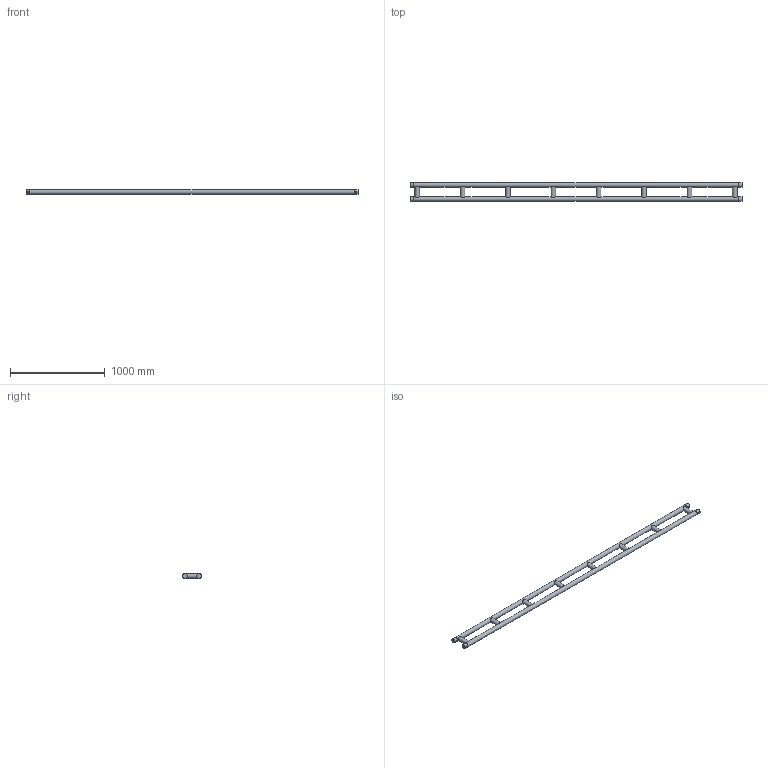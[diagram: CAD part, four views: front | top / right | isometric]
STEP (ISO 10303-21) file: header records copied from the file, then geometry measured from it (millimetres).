
FILE_DESCRIPTION(/* description */ (''),/* implementation_level */ '2;1');
FILE_NAME(/* name */ 'C:\Users\adrian.toca\Desktop\111050570.stp',/* time_stamp */ '2016-09-30T15:09:48+03:00',/* author */ ('adrian.toca'),/* organization */ (''),/* preprocessor_version */ 'ST-DEVELOPER v15.6',/* originating_system */ 'Autodesk Inventor 2015',/* authorisation */ '');
FILE_SCHEMA (('AUTOMOTIVE_DESIGN { 1 0 10303 214 3 1 1 }'));
Length unit declared in the file: millimetre
Products named in the file (1): 260031052
Bounding box: 3500 x 198.3 x 48.3 mm (x, y, z)
Volume: 14400156.8 mm3; surface area: 1186460.8 mm2
Topology: 1 solids, 1 shells, 62 faces, 218 edges, 144 vertices
Faces by surface type: plane 40, cylinder 18, cone 4
Full cylindrical faces by diameter (mm): 10 x4, 48.3 x14
Entity records: 2141 total; most frequent: CARTESIAN_POINT 567, DIRECTION 318, ORIENTED_EDGE 256, AXIS2_PLACEMENT_3D 143, EDGE_CURVE 128, EDGE_LOOP 112, VERTEX_POINT 96, STYLED_ITEM 63
